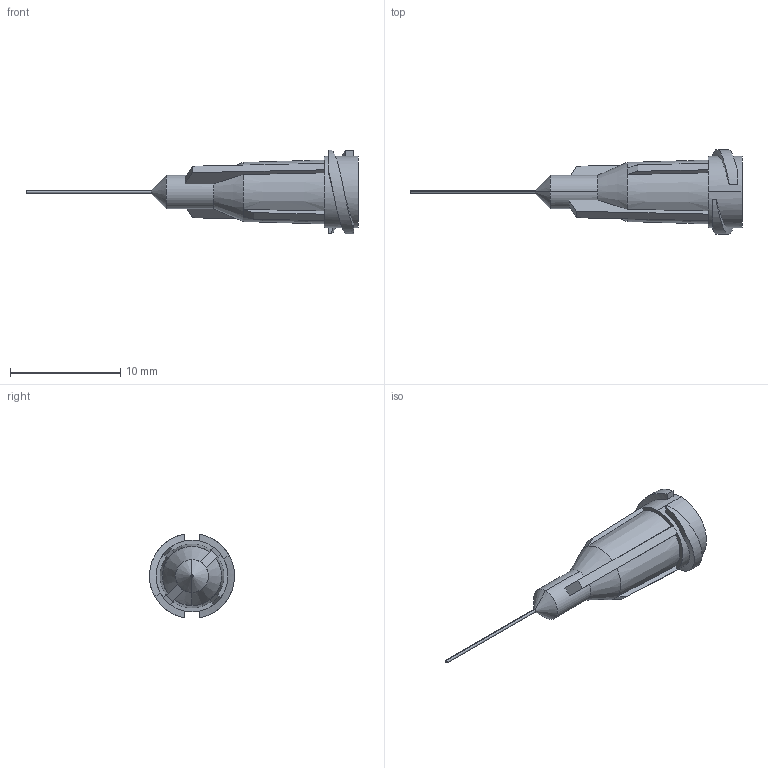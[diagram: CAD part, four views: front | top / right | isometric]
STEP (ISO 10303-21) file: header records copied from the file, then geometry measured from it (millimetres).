
FILE_DESCRIPTION (( 'STEP AP214' ), '1' );
FILE_NAME ('8001117_CUS.STEP', '2022-05-31T10:57:13', ( '' ), ( '' ), 'SwSTEP 2.0', 'SolidWorks 2020', '' );
FILE_SCHEMA (( 'AUTOMOTIVE_DESIGN' ));
Length unit declared in the file: millimetre
Products named in the file (1): 8001117_CUS
Bounding box: 30.07 x 7.7 x 7.59 mm (x, y, z)
Surface area: 521.4 mm2 (no closed solid volume)
Topology: 0 solids, 3 shells, 59 faces, 166 edges, 106 vertices
Faces by surface type: plane 33, cone 12, cylinder 8, bspline 6
Entity records: 2806 total; most frequent: CARTESIAN_POINT 694, ORIENTED_EDGE 302, DIRECTION 292, EDGE_CURVE 166, AXIS2_PLACEMENT_3D 110, VERTEX_POINT 106, LINE 72, VECTOR 72
